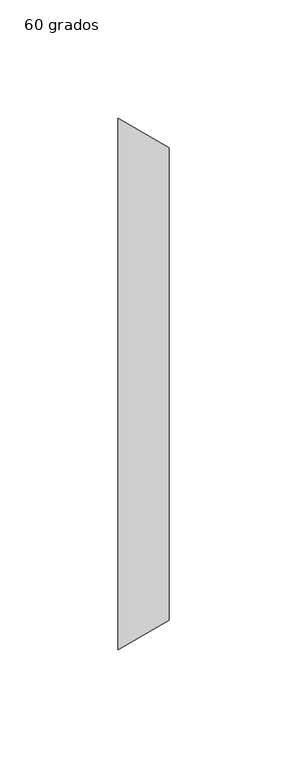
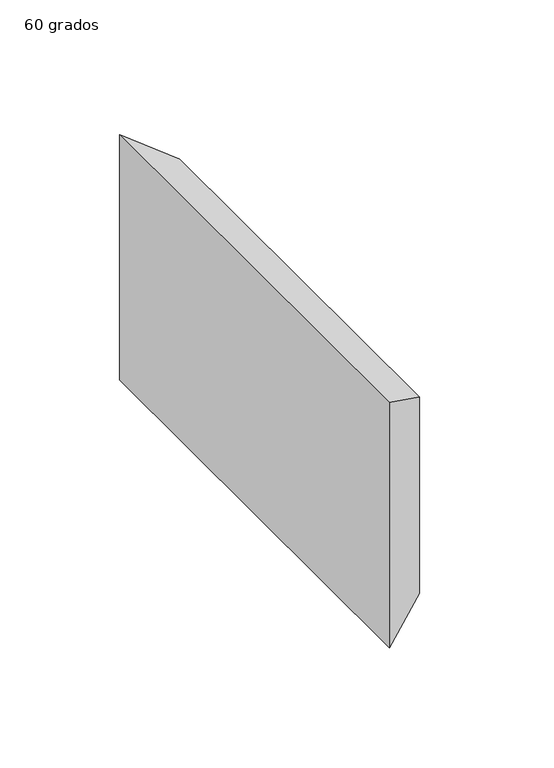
"""IFC4 building model written with IfcOpenShell, lengths in millimetres: duct fitting geometry, M_Transición rectangular - Ángulo : 60 grados."""

from ifc_helpers import new_model, si_unit, origin, place, context, project, spatial, faceted_brep, source, transform, mapped, element, save


def duct_fitting_60_grados_3b804c6e(model_context):
    return source(origin(), model_context, "Body", "Brep", [
        faceted_brep([(21.6506351, -100.0, 50.0), (21.6506351, -100.0, -50.0), (21.6506351, 100.0, -50.0), (21.6506351, 100.0, 50.0), (0.0, -112.5, 62.5), (0.0, 112.5, 62.5), (0.0, 112.5, -62.5), (0.0, -112.5, -62.5)], [[[0, 1, 2, 3]], [[4, 5, 6, 7]], [[4, 7, 1, 0]], [[7, 6, 2, 1]], [[6, 5, 3, 2]], [[5, 4, 0, 3]]]),
    ])


if __name__ == "__main__":
    model = new_model("IFC4")
    model_context = context("Model", 3, world=origin())
    ifc_project = project(units=[si_unit("LENGTHUNIT", "METRE", prefix="MILLI")], contexts=[model_context])
    site = spatial("IfcSite", under=ifc_project)
    building = spatial("IfcBuilding", under=site)
    placement = place(None, origin())
    duct_fitting_60_grados_shape = duct_fitting_60_grados_3b804c6e(model_context)
    element("IfcDuctFitting", 1, ObjectType="M_Transición rectangular - Ángulo : 60 grados", at=placement, inside=building, context=model_context, shape_type="MappedRepresentation", body=[
        mapped(duct_fitting_60_grados_shape, transform((0.0, 0.0, 0.0), x_axis=(1.0, 0.0, 0.0), y_axis=(0.0, 1.0, 0.0), z_axis=(0.0, 0.0, 1.0))),
    ])
    save(model, "model.ifc")
